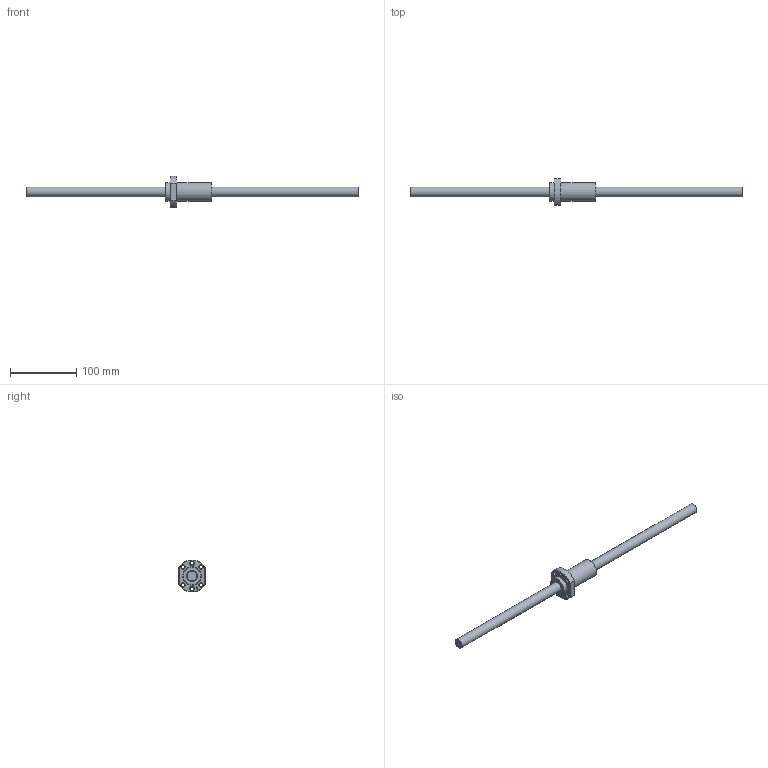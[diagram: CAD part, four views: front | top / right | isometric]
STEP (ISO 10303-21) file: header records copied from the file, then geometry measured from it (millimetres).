
FILE_DESCRIPTION (( 'STEP AP203' ), '1' );
FILE_NAME ('SFA1630-1.8.step', '2024-05-07T07:25:01', ( '' ), ( '' ), 'SwSTEP 2.0', 'SolidWorks 2022', '' );
FILE_SCHEMA (( 'CONFIG_CONTROL_DESIGN' ));
Length unit declared in the file: millimetre
Products named in the file (1): SFA1630-1.8
Bounding box: 500 x 40 x 48 mm (x, y, z)
Volume: 125063.3 mm3; surface area: 38069.9 mm2
Topology: 2 solids, 2 shells, 56 faces, 130 edges, 80 vertices
Faces by surface type: cylinder 19, plane 13, cone 13, torus 6, bspline 5
Full cylindrical faces by diameter (mm): 4 x1, 5 x5, 5.5 x6, 15 x1, 16.6 x1, 28 x2
Entity records: 3131 total; most frequent: CARTESIAN_POINT 2084, DIRECTION 198, ORIENTED_EDGE 156, EDGE_LOOP 96, AXIS2_PLACEMENT_3D 91, EDGE_CURVE 78, FACE_OUTER_BOUND 65, VERTEX_POINT 62
